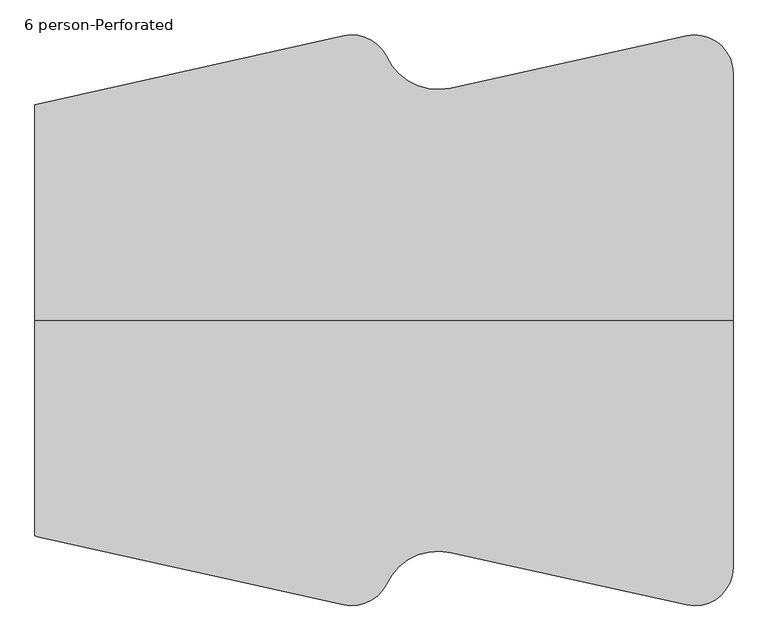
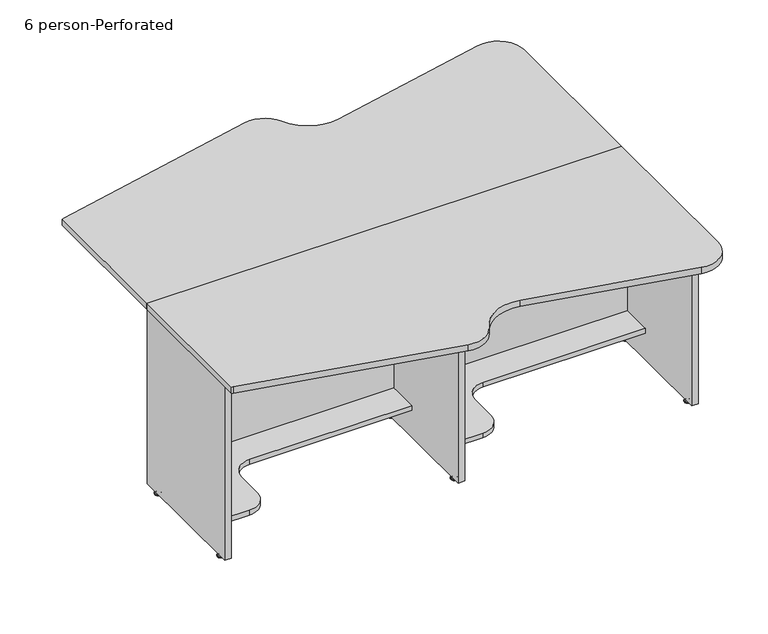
"""IFC4 building model written with IfcOpenShell, lengths in millimetres: furniture geometry, Nova Solutions - Collaboration Table - Keystone_6-7 person : 6 person-Perforated."""

from ifc_helpers import new_model, si_unit, point, frame, frame_2d, origin, place, context, project, spatial, polyline, circle_curve, ellipse_curve, trimmed, segment, composite_curve, outline, extrude, source, transform, mapped, element, save
from ifc_brep_helpers import plane_surface, cylinder_surface, revolved_surface, advanced_brep


def furniture_6_person_perforated_24b4f6db(model_context):
    return source(origin(), model_context, "Body", "SolidModel", [
        advanced_brep(
        [(463.1276506, 474.3309375, 11.1125), (456.45, 474.3309375, 11.1125), (449.7723494, 474.3309375, 11.1125), (463.1276506, 474.3309375, 9.525), (449.7723494, 474.3309375, 9.525), (468.3355135, 474.3309375, 4.7748687), (444.5644865, 474.3309375, 4.7748687), (469.1966506, 474.3309375, 3.989419), (443.7033494, 474.3309375, 3.989419), (469.1966506, 474.3309375, 3.175), (443.7033494, 474.3309375, 3.175), (468.3459119, 474.3309375, 0.0), (444.5540881, 474.3309375, 0.0), (456.45, 474.3309375, 0.0)],
        [
            (0, 1),
            (1, 2),
            (2, 0, circle_curve(frame((456.45, 474.3309375, 11.1125), z_axis=(0.0, 0.0, 1.0), x_axis=(-1.0, 0.0, 0.0)), 6.6776506)),
            (0, 2, circle_curve(frame((456.45, 474.3309375, 11.1125), z_axis=(0.0, 0.0, 1.0), x_axis=(-1.0, 0.0, 0.0)), 6.6776506)),
            (3, 0),
            (2, 4),
            (4, 3, circle_curve(frame((456.45, 474.3309375, 9.525), z_axis=(0.0, 0.0, 1.0), x_axis=(-1.0, 0.0, 0.0)), 6.6776506)),
            (3, 4, circle_curve(frame((456.45, 474.3309375, 9.525), z_axis=(0.0, 0.0, 1.0), x_axis=(-1.0, 0.0, 0.0)), 6.6776506)),
            (5, 3, circle_curve(frame((469.3820627, 474.3309375, 11.1521822), z_axis=(0.0, 1.0, 0.0), x_axis=(-1.0, 0.0, 0.0)), 6.462615)),
            (4, 6, circle_curve(frame((443.5179373, 474.3309375, 11.1521822), z_axis=(0.0, 1.0, 0.0), x_axis=(1.0, 0.0, 0.0)), 6.462615)),
            (6, 5, circle_curve(frame((456.45, 474.3309375, 4.7748687), z_axis=(0.0, 0.0, 1.0), x_axis=(-1.0, 0.0, 0.0)), 11.8855135)),
            (5, 6, circle_curve(frame((456.45, 474.3309375, 4.7748687), z_axis=(0.0, 0.0, 1.0), x_axis=(-1.0, 0.0, 0.0)), 11.8855135)),
            (7, 5, circle_curve(frame((468.1624632, 474.3309375, 3.7203591), z_axis=(0.0, -1.0, 0.0), x_axis=(-1.0, 0.0, 0.0)), 1.0686145)),
            (6, 8, circle_curve(frame((444.7375368, 474.3309375, 3.7203591), z_axis=(0.0, -1.0, 0.0), x_axis=(1.0, 0.0, 0.0)), 1.0686145)),
            (8, 7, circle_curve(frame((456.45, 474.3309375, 3.989419), z_axis=(0.0, 0.0, 1.0), x_axis=(-1.0, 0.0, 0.0)), 12.7466506)),
            (7, 8, circle_curve(frame((456.45, 474.3309375, 3.989419), z_axis=(0.0, 0.0, 1.0), x_axis=(-1.0, 0.0, 0.0)), 12.7466506)),
            (9, 7),
            (8, 10),
            (10, 9, circle_curve(frame((456.45, 474.3309375, 3.175), z_axis=(0.0, 0.0, 1.0), x_axis=(-1.0, 0.0, 0.0)), 12.7466506)),
            (9, 10, circle_curve(frame((456.45, 474.3309375, 3.175), z_axis=(0.0, 0.0, 1.0), x_axis=(-1.0, 0.0, 0.0)), 12.7466506)),
            (11, 9),
            (10, 12),
            (12, 11, circle_curve(frame((456.45, 474.3309375, 0.0), z_axis=(0.0, 0.0, 1.0), x_axis=(-1.0, 0.0, 0.0)), 11.8959119)),
            (11, 12, circle_curve(frame((456.45, 474.3309375, 0.0), z_axis=(0.0, 0.0, 1.0), x_axis=(-1.0, 0.0, 0.0)), 11.8959119)),
            (13, 11),
            (12, 13),
        ],
        [
            plane_surface(frame((456.45, 474.3309375, 11.1125), z_axis=(0.0, 0.0, 1.0), x_axis=(-1.0, 0.0, 0.0))),
            cylinder_surface(frame((456.45, 474.3309375, 43.2095994), z_axis=(0.0, 0.0, -1.0), x_axis=(-1.0, 0.0, 0.0)), 6.6776506),
            revolved_surface(trimmed(ellipse_curve(frame((443.5179373, 474.3309375, 11.1521822), z_axis=(0.0, 1.0, 0.0), x_axis=(1.0, 0.0, 0.0)), 6.462615, 6.462615), [point((449.7723494, 474.3309375, 9.525))], [point((444.5644865, 474.3309375, 4.7748687))], True, "CARTESIAN"), (456.45, 474.3309375, 43.2095994), (0.0, 0.0, -1.0)),
            revolved_surface(trimmed(ellipse_curve(frame((444.7375368, 474.3309375, 3.7203591), z_axis=(0.0, -1.0, 0.0), x_axis=(1.0, 0.0, 0.0)), 1.0686145, 1.0686145), [point((444.5644865, 474.3309375, 4.7748687))], [point((443.7033494, 474.3309375, 3.989419))], True, "CARTESIAN"), (456.45, 474.3309375, 43.2095994), (0.0, 0.0, -1.0)),
            cylinder_surface(frame((456.45, 474.3309375, 43.2095994), z_axis=(0.0, 0.0, -1.0), x_axis=(-1.0, 0.0, 0.0)), 12.7466506),
            revolved_surface(polyline([(443.7033494, 474.3309375, 3.175), (444.5540881, 474.3309375, 0.0)]), (456.45, 474.3309375, 43.2095994), (0.0, 0.0, -1.0)),
            plane_surface(frame((456.45, 474.3309375, 0.0), z_axis=(0.0, 0.0, -1.0), x_axis=(-1.0, 0.0, 0.0))),
        ],
        [
            (0, [[1, 2, 3]]),
            (0, [[-2, -1, 4]]),
            (1, [[5, -3, 6, 7]]),
            (1, [[-6, -4, -5, 8]]),
            (2, [[9, -7, 10, 11]]),
            (2, [[-10, -8, -9, 12]]),
            (3, [[13, -11, 14, 15]]),
            (3, [[-14, -12, -13, 16]]),
            (4, [[17, -15, 18, 19]]),
            (4, [[-18, -16, -17, 20]]),
            (5, [[21, -19, 22, 23]]),
            (5, [[-22, -20, -21, 24]]),
            (6, [[25, -23, 26]]),
            (6, [[-26, -24, -25]]),
        ],
    ),
        advanced_brep(
        [(463.1276506, 50.3590625, 11.1125), (456.45, 50.3590625, 11.1125), (449.7723494, 50.3590625, 11.1125), (463.1276506, 50.3590625, 9.525), (449.7723494, 50.3590625, 9.525), (468.3355135, 50.3590625, 4.7748687), (444.5644865, 50.3590625, 4.7748687), (469.1966506, 50.3590625, 3.989419), (443.7033494, 50.3590625, 3.989419), (469.1966506, 50.3590625, 3.175), (443.7033494, 50.3590625, 3.175), (468.3459119, 50.3590625, 0.0), (444.5540881, 50.3590625, 0.0), (456.45, 50.3590625, 0.0)],
        [
            (0, 1),
            (1, 2),
            (2, 0, circle_curve(frame((456.45, 50.3590625, 11.1125), z_axis=(0.0, 0.0, 1.0), x_axis=(-1.0, 0.0, 0.0)), 6.6776506)),
            (0, 2, circle_curve(frame((456.45, 50.3590625, 11.1125), z_axis=(0.0, 0.0, 1.0), x_axis=(-1.0, 0.0, 0.0)), 6.6776506)),
            (3, 0),
            (2, 4),
            (4, 3, circle_curve(frame((456.45, 50.3590625, 9.525), z_axis=(0.0, 0.0, 1.0), x_axis=(-1.0, 0.0, 0.0)), 6.6776506)),
            (3, 4, circle_curve(frame((456.45, 50.3590625, 9.525), z_axis=(0.0, 0.0, 1.0), x_axis=(-1.0, 0.0, 0.0)), 6.6776506)),
            (5, 3, circle_curve(frame((469.3820627, 50.3590625, 11.1521822), z_axis=(0.0, 1.0, 0.0), x_axis=(-1.0, 0.0, 0.0)), 6.462615)),
            (4, 6, circle_curve(frame((443.5179373, 50.3590625, 11.1521822), z_axis=(0.0, 1.0, 0.0), x_axis=(1.0, 0.0, 0.0)), 6.462615)),
            (6, 5, circle_curve(frame((456.45, 50.3590625, 4.7748687), z_axis=(0.0, 0.0, 1.0), x_axis=(-1.0, 0.0, 0.0)), 11.8855135)),
            (5, 6, circle_curve(frame((456.45, 50.3590625, 4.7748687), z_axis=(0.0, 0.0, 1.0), x_axis=(-1.0, 0.0, 0.0)), 11.8855135)),
            (7, 5, circle_curve(frame((468.1624632, 50.3590625, 3.7203591), z_axis=(0.0, -1.0, 0.0), x_axis=(-1.0, 0.0, 0.0)), 1.0686145)),
            (6, 8, circle_curve(frame((444.7375368, 50.3590625, 3.7203591), z_axis=(0.0, -1.0, 0.0), x_axis=(1.0, 0.0, 0.0)), 1.0686145)),
            (8, 7, circle_curve(frame((456.45, 50.3590625, 3.989419), z_axis=(0.0, 0.0, 1.0), x_axis=(-1.0, 0.0, 0.0)), 12.7466506)),
            (7, 8, circle_curve(frame((456.45, 50.3590625, 3.989419), z_axis=(0.0, 0.0, 1.0), x_axis=(-1.0, 0.0, 0.0)), 12.7466506)),
            (9, 7),
            (8, 10),
            (10, 9, circle_curve(frame((456.45, 50.3590625, 3.175), z_axis=(0.0, 0.0, 1.0), x_axis=(-1.0, 0.0, 0.0)), 12.7466506)),
            (9, 10, circle_curve(frame((456.45, 50.3590625, 3.175), z_axis=(0.0, 0.0, 1.0), x_axis=(-1.0, 0.0, 0.0)), 12.7466506)),
            (11, 9),
            (10, 12),
            (12, 11, circle_curve(frame((456.45, 50.3590625, 0.0), z_axis=(0.0, 0.0, 1.0), x_axis=(-1.0, 0.0, 0.0)), 11.8959119)),
            (11, 12, circle_curve(frame((456.45, 50.3590625, 0.0), z_axis=(0.0, 0.0, 1.0), x_axis=(-1.0, 0.0, 0.0)), 11.8959119)),
            (13, 11),
            (12, 13),
        ],
        [
            plane_surface(frame((456.45, 50.3590625, 11.1125), z_axis=(0.0, 0.0, 1.0), x_axis=(-1.0, 0.0, 0.0))),
            cylinder_surface(frame((456.45, 50.3590625, 43.2095994), z_axis=(0.0, 0.0, -1.0), x_axis=(-1.0, 0.0, 0.0)), 6.6776506),
            revolved_surface(trimmed(ellipse_curve(frame((443.5179373, 50.3590625, 11.1521822), z_axis=(0.0, 1.0, 0.0), x_axis=(1.0, 0.0, 0.0)), 6.462615, 6.462615), [point((449.7723494, 50.3590625, 9.525))], [point((444.5644865, 50.3590625, 4.7748687))], True, "CARTESIAN"), (456.45, 50.3590625, 43.2095994), (0.0, 0.0, -1.0)),
            revolved_surface(trimmed(ellipse_curve(frame((444.7375368, 50.3590625, 3.7203591), z_axis=(0.0, -1.0, 0.0), x_axis=(1.0, 0.0, 0.0)), 1.0686145, 1.0686145), [point((444.5644865, 50.3590625, 4.7748687))], [point((443.7033494, 50.3590625, 3.989419))], True, "CARTESIAN"), (456.45, 50.3590625, 43.2095994), (0.0, 0.0, -1.0)),
            cylinder_surface(frame((456.45, 50.3590625, 43.2095994), z_axis=(0.0, 0.0, -1.0), x_axis=(-1.0, 0.0, 0.0)), 12.7466506),
            revolved_surface(polyline([(443.7033494, 50.3590625, 3.175), (444.5540881, 50.3590625, 0.0)]), (456.45, 50.3590625, 43.2095994), (0.0, 0.0, -1.0)),
            plane_surface(frame((456.45, 50.3590625, 0.0), z_axis=(0.0, 0.0, -1.0), x_axis=(-1.0, 0.0, 0.0))),
        ],
        [
            (0, [[1, 2, 3]]),
            (0, [[-2, -1, 4]]),
            (1, [[5, -3, 6, 7]]),
            (1, [[-6, -4, -5, 8]]),
            (2, [[9, -7, 10, 11]]),
            (2, [[-10, -8, -9, 12]]),
            (3, [[13, -11, 14, 15]]),
            (3, [[-14, -12, -13, 16]]),
            (4, [[17, -15, 18, 19]]),
            (4, [[-18, -16, -17, 20]]),
            (5, [[21, -19, 22, 23]]),
            (5, [[-22, -20, -21, 24]]),
            (6, [[25, -23, 26]]),
            (6, [[-26, -24, -25]]),
        ],
    ),
        extrude(outline(polyline([(469.3, 1.345), (443.6, 1.345), (443.6, 523.345), (469.3, 523.345), (469.3, 1.345)])), frame((0.0, 0.0, 15.6), z_axis=(0.0, 0.0, 1.0), x_axis=(1.0, 0.0, 0.0)), (0.0, 0.0, 1.0), 720.7),
        extrude(outline(composite_curve([segment(polyline([(1383.5, 0.0), (-470.738, 0.0), (-470.738, 572.7433508)]), True, "CONTINUOUS"), segment(trimmed(circle_curve(frame_2d((-445.3751452, 474.4632633)), 101.5), [point((-470.738, 572.7433508))], [point((-464.3258236, 574.1784667))], False, "CARTESIAN"), True, "CONTINUOUS"), segment(polyline([(-464.3258236, 574.1784667), (349.1672116, 755.6229945)]), True, "CONTINUOUS"), segment(trimmed(circle_curve(frame_2d((371.2632006, 656.5572725)), 101.5), [point((349.1672116, 755.6229945))], [point((461.8649334, 702.3128843))], False, "CARTESIAN"), True, "CONTINUOUS"), segment(trimmed(circle_curve(frame_2d((600.5430311, 765.5121345)), 152.4), [point((461.8649334, 702.3128843))], [point((633.5284283, 616.724623))], True, "CARTESIAN"), True, "CONTINUOUS"), segment(polyline([(633.5284283, 616.724623), (1260.0313792, 755.6169834)]), True, "CONTINUOUS"), segment(trimmed(circle_curve(frame_2d((1282.0, 656.5229386)), 101.5), [point((1260.0313792, 755.6169834))], [point((1383.5, 656.5229386))], False, "CARTESIAN"), True, "CONTINUOUS"), segment(polyline([(1383.5, 656.5229386), (1383.5, 0.0)]), True, "CONTINUOUS")], self_intersect=False)), frame((0.0, 0.0, 736.3), z_axis=(0.0, 0.0, 1.0), x_axis=(1.0, 0.0, 0.0)), (0.0, 0.0, 1.0), 25.7),
        extrude(outline(polyline([(736.3, 1356.4), (736.3, 469.3), (507.4, 469.3), (507.4, 640.3), (145.5, 640.3), (145.5, 1356.4), (736.3, 1356.4)])), frame((0.0, -88.545, 0.0), z_axis=(0.0, 1.0, 0.0), x_axis=(0.0, 0.0, 1.0)), (0.0, 0.0, 1.0), 19.2),
        extrude(outline(composite_curve([segment(polyline([(1356.4, -14.045), (1356.4, -210.345), (723.3, -210.345)]), True, "CONTINUOUS"), segment(trimmed(circle_curve(frame_2d((723.3, -286.545)), 76.2), [point((723.3, -210.345))], [point((647.1, -286.545))], True, "CARTESIAN"), True, "CONTINUOUS"), segment(polyline([(647.1, -286.545), (647.1, -393.7075)]), True, "CONTINUOUS"), segment(trimmed(circle_curve(frame_2d((570.9, -393.7075)), 76.2), [point((647.1, -393.7075))], [point((570.9, -469.9075))], False, "CARTESIAN"), True, "CONTINUOUS"), segment(polyline([(570.9, -469.9075), (469.3, -469.9075), (469.3, -14.045), (1356.4, -14.045)]), True, "CONTINUOUS")], self_intersect=False)), frame((0.0, 0.0, 126.3), z_axis=(0.0, 0.0, 1.0), x_axis=(1.0, 0.0, 0.0)), (0.0, 0.0, 1.0), 19.2),
        advanced_brep(
        [(1375.9276506, -474.3309375, 11.1125), (1362.5723494, -474.3309375, 11.1125), (1369.25, -474.3309375, 11.1125), (1375.9276506, -474.3309375, 9.525), (1362.5723494, -474.3309375, 9.525), (1381.1355135, -474.3309375, 4.7748687), (1357.3644865, -474.3309375, 4.7748687), (1381.9966506, -474.3309375, 3.989419), (1356.5033494, -474.3309375, 3.989419), (1381.9966506, -474.3309375, 3.175), (1356.5033494, -474.3309375, 3.175), (1381.1459119, -474.3309375, 0.0), (1357.3540881, -474.3309375, 0.0), (1369.25, -474.3309375, 0.0)],
        [
            (0, 1, circle_curve(frame((1369.25, -474.3309375, 11.1125), z_axis=(0.0, 0.0, 1.0), x_axis=(-1.0, 0.0, 0.0)), 6.6776506)),
            (1, 2),
            (2, 0),
            (1, 0, circle_curve(frame((1369.25, -474.3309375, 11.1125), z_axis=(0.0, 0.0, 1.0), x_axis=(-1.0, 0.0, 0.0)), 6.6776506)),
            (3, 4, circle_curve(frame((1369.25, -474.3309375, 9.525), z_axis=(0.0, 0.0, 1.0), x_axis=(-1.0, 0.0, 0.0)), 6.6776506)),
            (4, 1),
            (0, 3),
            (4, 3, circle_curve(frame((1369.25, -474.3309375, 9.525), z_axis=(0.0, 0.0, 1.0), x_axis=(-1.0, 0.0, 0.0)), 6.6776506)),
            (5, 6, circle_curve(frame((1369.25, -474.3309375, 4.7748687), z_axis=(0.0, 0.0, 1.0), x_axis=(-1.0, 0.0, 0.0)), 11.8855135)),
            (6, 4, circle_curve(frame((1356.3179373, -474.3309375, 11.1521822), z_axis=(0.0, -1.0, 0.0), x_axis=(1.0, 0.0, 0.0)), 6.462615)),
            (3, 5, circle_curve(frame((1382.1820627, -474.3309375, 11.1521822), z_axis=(0.0, -1.0, 0.0), x_axis=(-1.0, 0.0, 0.0)), 6.462615)),
            (6, 5, circle_curve(frame((1369.25, -474.3309375, 4.7748687), z_axis=(0.0, 0.0, 1.0), x_axis=(-1.0, 0.0, 0.0)), 11.8855135)),
            (7, 8, circle_curve(frame((1369.25, -474.3309375, 3.989419), z_axis=(0.0, 0.0, 1.0), x_axis=(-1.0, 0.0, 0.0)), 12.7466506)),
            (8, 6, circle_curve(frame((1357.5375368, -474.3309375, 3.7203591), z_axis=(0.0, 1.0, 0.0), x_axis=(1.0, 0.0, 0.0)), 1.0686145)),
            (5, 7, circle_curve(frame((1380.9624632, -474.3309375, 3.7203591), z_axis=(0.0, 1.0, 0.0), x_axis=(-1.0, 0.0, 0.0)), 1.0686145)),
            (8, 7, circle_curve(frame((1369.25, -474.3309375, 3.989419), z_axis=(0.0, 0.0, 1.0), x_axis=(-1.0, 0.0, 0.0)), 12.7466506)),
            (9, 10, circle_curve(frame((1369.25, -474.3309375, 3.175), z_axis=(0.0, 0.0, 1.0), x_axis=(-1.0, 0.0, 0.0)), 12.7466506)),
            (10, 8),
            (7, 9),
            (10, 9, circle_curve(frame((1369.25, -474.3309375, 3.175), z_axis=(0.0, 0.0, 1.0), x_axis=(-1.0, 0.0, 0.0)), 12.7466506)),
            (11, 12, circle_curve(frame((1369.25, -474.3309375, 0.0), z_axis=(0.0, 0.0, 1.0), x_axis=(-1.0, 0.0, 0.0)), 11.8959119)),
            (12, 10),
            (9, 11),
            (12, 11, circle_curve(frame((1369.25, -474.3309375, 0.0), z_axis=(0.0, 0.0, 1.0), x_axis=(-1.0, 0.0, 0.0)), 11.8959119)),
            (13, 12),
            (11, 13),
        ],
        [
            plane_surface(frame((1369.25, -474.3309375, 11.1125), z_axis=(0.0, 0.0, 1.0), x_axis=(-1.0, 0.0, 0.0))),
            cylinder_surface(frame((1369.25, -474.3309375, 43.2095994), z_axis=(0.0, 0.0, -1.0), x_axis=(-1.0, 0.0, 0.0)), 6.6776506),
            revolved_surface(trimmed(ellipse_curve(frame((1356.3179373, -474.3309375, 11.1521822), z_axis=(0.0, 1.0, 0.0), x_axis=(1.0, 0.0, 0.0)), 6.462615, 6.462615), [point((1362.5723494, -474.3309375, 9.525))], [point((1357.3644865, -474.3309375, 4.7748687))], True, "CARTESIAN"), (1369.25, -474.3309375, 43.2095994), (0.0, 0.0, -1.0)),
            revolved_surface(trimmed(ellipse_curve(frame((1357.5375368, -474.3309375, 3.7203591), z_axis=(0.0, -1.0, 0.0), x_axis=(1.0, 0.0, 0.0)), 1.0686145, 1.0686145), [point((1357.3644865, -474.3309375, 4.7748687))], [point((1356.5033494, -474.3309375, 3.989419))], True, "CARTESIAN"), (1369.25, -474.3309375, 43.2095994), (0.0, 0.0, -1.0)),
            cylinder_surface(frame((1369.25, -474.3309375, 43.2095994), z_axis=(0.0, 0.0, -1.0), x_axis=(-1.0, 0.0, 0.0)), 12.7466506),
            revolved_surface(polyline([(1356.5033494, -474.3309375, 3.175), (1357.3540881, -474.3309375, 0.0)]), (1369.25, -474.3309375, 43.2095994), (0.0, 0.0, -1.0)),
            plane_surface(frame((1369.25, -474.3309375, 0.0), z_axis=(0.0, 0.0, -1.0), x_axis=(-1.0, 0.0, 0.0))),
        ],
        [
            (0, [[1, 2, 3]]),
            (0, [[4, -3, -2]]),
            (1, [[5, 6, -1, 7]]),
            (1, [[8, -7, -4, -6]]),
            (2, [[9, 10, -5, 11]]),
            (2, [[12, -11, -8, -10]]),
            (3, [[13, 14, -9, 15]]),
            (3, [[16, -15, -12, -14]]),
            (4, [[17, 18, -13, 19]]),
            (4, [[20, -19, -16, -18]]),
            (5, [[21, 22, -17, 23]]),
            (5, [[24, -23, -20, -22]]),
            (6, [[25, -21, 26]]),
            (6, [[-26, -24, -25]]),
        ],
    ),
        advanced_brep(
        [(1375.9276506, -50.3590625, 11.1125), (1362.5723494, -50.3590625, 11.1125), (1369.25, -50.3590625, 11.1125), (1375.9276506, -50.3590625, 9.525), (1362.5723494, -50.3590625, 9.525), (1381.1355135, -50.3590625, 4.7748687), (1357.3644865, -50.3590625, 4.7748687), (1381.9966506, -50.3590625, 3.989419), (1356.5033494, -50.3590625, 3.989419), (1381.9966506, -50.3590625, 3.175), (1356.5033494, -50.3590625, 3.175), (1381.1459119, -50.3590625, 0.0), (1357.3540881, -50.3590625, 0.0), (1369.25, -50.3590625, 0.0)],
        [
            (0, 1, circle_curve(frame((1369.25, -50.3590625, 11.1125), z_axis=(0.0, 0.0, 1.0), x_axis=(-1.0, 0.0, 0.0)), 6.6776506)),
            (1, 2),
            (2, 0),
            (1, 0, circle_curve(frame((1369.25, -50.3590625, 11.1125), z_axis=(0.0, 0.0, 1.0), x_axis=(-1.0, 0.0, 0.0)), 6.6776506)),
            (3, 4, circle_curve(frame((1369.25, -50.3590625, 9.525), z_axis=(0.0, 0.0, 1.0), x_axis=(-1.0, 0.0, 0.0)), 6.6776506)),
            (4, 1),
            (0, 3),
            (4, 3, circle_curve(frame((1369.25, -50.3590625, 9.525), z_axis=(0.0, 0.0, 1.0), x_axis=(-1.0, 0.0, 0.0)), 6.6776506)),
            (5, 6, circle_curve(frame((1369.25, -50.3590625, 4.7748687), z_axis=(0.0, 0.0, 1.0), x_axis=(-1.0, 0.0, 0.0)), 11.8855135)),
            (6, 4, circle_curve(frame((1356.3179373, -50.3590625, 11.1521822), z_axis=(0.0, -1.0, 0.0), x_axis=(1.0, 0.0, 0.0)), 6.462615)),
            (3, 5, circle_curve(frame((1382.1820627, -50.3590625, 11.1521822), z_axis=(0.0, -1.0, 0.0), x_axis=(-1.0, 0.0, 0.0)), 6.462615)),
            (6, 5, circle_curve(frame((1369.25, -50.3590625, 4.7748687), z_axis=(0.0, 0.0, 1.0), x_axis=(-1.0, 0.0, 0.0)), 11.8855135)),
            (7, 8, circle_curve(frame((1369.25, -50.3590625, 3.989419), z_axis=(0.0, 0.0, 1.0), x_axis=(-1.0, 0.0, 0.0)), 12.7466506)),
            (8, 6, circle_curve(frame((1357.5375368, -50.3590625, 3.7203591), z_axis=(0.0, 1.0, 0.0), x_axis=(1.0, 0.0, 0.0)), 1.0686145)),
            (5, 7, circle_curve(frame((1380.9624632, -50.3590625, 3.7203591), z_axis=(0.0, 1.0, 0.0), x_axis=(-1.0, 0.0, 0.0)), 1.0686145)),
            (8, 7, circle_curve(frame((1369.25, -50.3590625, 3.989419), z_axis=(0.0, 0.0, 1.0), x_axis=(-1.0, 0.0, 0.0)), 12.7466506)),
            (9, 10, circle_curve(frame((1369.25, -50.3590625, 3.175), z_axis=(0.0, 0.0, 1.0), x_axis=(-1.0, 0.0, 0.0)), 12.7466506)),
            (10, 8),
            (7, 9),
            (10, 9, circle_curve(frame((1369.25, -50.3590625, 3.175), z_axis=(0.0, 0.0, 1.0), x_axis=(-1.0, 0.0, 0.0)), 12.7466506)),
            (11, 12, circle_curve(frame((1369.25, -50.3590625, 0.0), z_axis=(0.0, 0.0, 1.0), x_axis=(-1.0, 0.0, 0.0)), 11.8959119)),
            (12, 10),
            (9, 11),
            (12, 11, circle_curve(frame((1369.25, -50.3590625, 0.0), z_axis=(0.0, 0.0, 1.0), x_axis=(-1.0, 0.0, 0.0)), 11.8959119)),
            (13, 12),
            (11, 13),
        ],
        [
            plane_surface(frame((1369.25, -50.3590625, 11.1125), z_axis=(0.0, 0.0, 1.0), x_axis=(-1.0, 0.0, 0.0))),
            cylinder_surface(frame((1369.25, -50.3590625, 43.2095994), z_axis=(0.0, 0.0, -1.0), x_axis=(-1.0, 0.0, 0.0)), 6.6776506),
            revolved_surface(trimmed(ellipse_curve(frame((1356.3179373, -50.3590625, 11.1521822), z_axis=(0.0, 1.0, 0.0), x_axis=(1.0, 0.0, 0.0)), 6.462615, 6.462615), [point((1362.5723494, -50.3590625, 9.525))], [point((1357.3644865, -50.3590625, 4.7748687))], True, "CARTESIAN"), (1369.25, -50.3590625, 43.2095994), (0.0, 0.0, -1.0)),
            revolved_surface(trimmed(ellipse_curve(frame((1357.5375368, -50.3590625, 3.7203591), z_axis=(0.0, -1.0, 0.0), x_axis=(1.0, 0.0, 0.0)), 1.0686145, 1.0686145), [point((1357.3644865, -50.3590625, 4.7748687))], [point((1356.5033494, -50.3590625, 3.989419))], True, "CARTESIAN"), (1369.25, -50.3590625, 43.2095994), (0.0, 0.0, -1.0)),
            cylinder_surface(frame((1369.25, -50.3590625, 43.2095994), z_axis=(0.0, 0.0, -1.0), x_axis=(-1.0, 0.0, 0.0)), 12.7466506),
            revolved_surface(polyline([(1356.5033494, -50.3590625, 3.175), (1357.3540881, -50.3590625, 0.0)]), (1369.25, -50.3590625, 43.2095994), (0.0, 0.0, -1.0)),
            plane_surface(frame((1369.25, -50.3590625, 0.0), z_axis=(0.0, 0.0, -1.0), x_axis=(-1.0, 0.0, 0.0))),
        ],
        [
            (0, [[1, 2, 3]]),
            (0, [[4, -3, -2]]),
            (1, [[5, 6, -1, 7]]),
            (1, [[8, -7, -4, -6]]),
            (2, [[9, 10, -5, 11]]),
            (2, [[12, -11, -8, -10]]),
            (3, [[13, 14, -9, 15]]),
            (3, [[16, -15, -12, -14]]),
            (4, [[17, 18, -13, 19]]),
            (4, [[20, -19, -16, -18]]),
            (5, [[21, 22, -17, 23]]),
            (5, [[24, -23, -20, -22]]),
            (6, [[25, -21, 26]]),
            (6, [[-26, -24, -25]]),
        ],
    ),
        extrude(outline(polyline([(1382.1, -1.345), (1382.1, -523.345), (1356.4, -523.345), (1356.4, -1.345), (1382.1, -1.345)])), frame((0.0, 0.0, 15.6), z_axis=(0.0, 0.0, 1.0), x_axis=(1.0, 0.0, 0.0)), (0.0, 0.0, 1.0), 720.7),
        extrude(outline(polyline([(145.5, 443.6), (736.3, 443.6), (736.3, -443.6), (507.4, -443.6), (507.4, -272.6), (145.5, -272.6), (145.5, 443.6)])), frame((0.0, -88.545, 0.0), z_axis=(0.0, 1.0, 0.0), x_axis=(0.0, 0.0, 1.0)), (0.0, 0.0, 1.0), 19.2),
        extrude(outline(composite_curve([segment(polyline([(-443.6, -469.9075), (-443.6, -14.045), (443.6, -14.045), (443.6, -210.345), (-189.6, -210.345)]), True, "CONTINUOUS"), segment(trimmed(circle_curve(frame_2d((-189.6, -286.545)), 76.2), [point((-189.6, -210.345))], [point((-265.8, -286.545))], True, "CARTESIAN"), True, "CONTINUOUS"), segment(polyline([(-265.8, -286.545), (-265.8, -393.7075)]), True, "CONTINUOUS"), segment(trimmed(circle_curve(frame_2d((-342.0, -393.7075)), 76.2), [point((-265.8, -393.7075))], [point((-342.0, -469.9075))], False, "CARTESIAN"), True, "CONTINUOUS"), segment(polyline([(-342.0, -469.9075), (-443.6, -469.9075)]), True, "CONTINUOUS")], self_intersect=False)), frame((0.0, 0.0, 126.3), z_axis=(0.0, 0.0, 1.0), x_axis=(1.0, 0.0, 0.0)), (0.0, 0.0, 1.0), 19.2),
        advanced_brep(
        [(-463.1276506, -474.3309375, 11.1125), (-456.45, -474.3309375, 11.1125), (-449.7723494, -474.3309375, 11.1125), (-463.1276506, -474.3309375, 9.525), (-449.7723494, -474.3309375, 9.525), (-468.3355135, -474.3309375, 4.7748687), (-444.5644865, -474.3309375, 4.7748687), (-469.1966506, -474.3309375, 3.989419), (-443.7033494, -474.3309375, 3.989419), (-469.1966506, -474.3309375, 3.175), (-443.7033494, -474.3309375, 3.175), (-468.3459119, -474.3309375, 0.0), (-444.5540881, -474.3309375, 0.0), (-456.45, -474.3309375, 0.0)],
        [
            (0, 1),
            (1, 2),
            (2, 0, circle_curve(frame((-456.45, -474.3309375, 11.1125), z_axis=(0.0, 0.0, 1.0), x_axis=(1.0, 0.0, 0.0)), 6.6776506)),
            (0, 2, circle_curve(frame((-456.45, -474.3309375, 11.1125), z_axis=(0.0, 0.0, 1.0), x_axis=(1.0, 0.0, 0.0)), 6.6776506)),
            (3, 0),
            (2, 4),
            (4, 3, circle_curve(frame((-456.45, -474.3309375, 9.525), z_axis=(0.0, 0.0, 1.0), x_axis=(1.0, 0.0, 0.0)), 6.6776506)),
            (3, 4, circle_curve(frame((-456.45, -474.3309375, 9.525), z_axis=(0.0, 0.0, 1.0), x_axis=(1.0, 0.0, 0.0)), 6.6776506)),
            (5, 3, circle_curve(frame((-469.3820627, -474.3309375, 11.1521822), z_axis=(0.0, -1.0, 0.0), x_axis=(1.0, 0.0, 0.0)), 6.462615)),
            (4, 6, circle_curve(frame((-443.5179373, -474.3309375, 11.1521822), z_axis=(0.0, -1.0, 0.0), x_axis=(-1.0, 0.0, 0.0)), 6.462615)),
            (6, 5, circle_curve(frame((-456.45, -474.3309375, 4.7748687), z_axis=(0.0, 0.0, 1.0), x_axis=(1.0, 0.0, 0.0)), 11.8855135)),
            (5, 6, circle_curve(frame((-456.45, -474.3309375, 4.7748687), z_axis=(0.0, 0.0, 1.0), x_axis=(1.0, 0.0, 0.0)), 11.8855135)),
            (7, 5, circle_curve(frame((-468.1624632, -474.3309375, 3.7203591), z_axis=(0.0, 1.0, 0.0), x_axis=(1.0, 0.0, 0.0)), 1.0686145)),
            (6, 8, circle_curve(frame((-444.7375368, -474.3309375, 3.7203591), z_axis=(0.0, 1.0, 0.0), x_axis=(-1.0, 0.0, 0.0)), 1.0686145)),
            (8, 7, circle_curve(frame((-456.45, -474.3309375, 3.989419), z_axis=(0.0, 0.0, 1.0), x_axis=(1.0, 0.0, 0.0)), 12.7466506)),
            (7, 8, circle_curve(frame((-456.45, -474.3309375, 3.989419), z_axis=(0.0, 0.0, 1.0), x_axis=(1.0, 0.0, 0.0)), 12.7466506)),
            (9, 7),
            (8, 10),
            (10, 9, circle_curve(frame((-456.45, -474.3309375, 3.175), z_axis=(0.0, 0.0, 1.0), x_axis=(1.0, 0.0, 0.0)), 12.7466506)),
            (9, 10, circle_curve(frame((-456.45, -474.3309375, 3.175), z_axis=(0.0, 0.0, 1.0), x_axis=(1.0, 0.0, 0.0)), 12.7466506)),
            (11, 9),
            (10, 12),
            (12, 11, circle_curve(frame((-456.45, -474.3309375, 0.0), z_axis=(0.0, 0.0, 1.0), x_axis=(1.0, 0.0, 0.0)), 11.8959119)),
            (11, 12, circle_curve(frame((-456.45, -474.3309375, 0.0), z_axis=(0.0, 0.0, 1.0), x_axis=(1.0, 0.0, 0.0)), 11.8959119)),
            (13, 11),
            (12, 13),
        ],
        [
            plane_surface(frame((-456.45, -474.3309375, 11.1125), z_axis=(0.0, 0.0, 1.0), x_axis=(1.0, 0.0, 0.0))),
            cylinder_surface(frame((-456.45, -474.3309375, 43.2095994), z_axis=(0.0, 0.0, -1.0), x_axis=(1.0, 0.0, 0.0)), 6.6776506),
            revolved_surface(trimmed(ellipse_curve(frame((-443.5179373, -474.3309375, 11.1521822), z_axis=(0.0, -1.0, 0.0), x_axis=(-1.0, 0.0, 0.0)), 6.462615, 6.462615), [point((-449.7723494, -474.3309375, 9.525))], [point((-444.5644865, -474.3309375, 4.7748687))], True, "CARTESIAN"), (-456.45, -474.3309375, 43.2095994), (0.0, 0.0, -1.0)),
            revolved_surface(trimmed(ellipse_curve(frame((-444.7375368, -474.3309375, 3.7203591), z_axis=(0.0, 1.0, 0.0), x_axis=(-1.0, 0.0, 0.0)), 1.0686145, 1.0686145), [point((-444.5644865, -474.3309375, 4.7748687))], [point((-443.7033494, -474.3309375, 3.989419))], True, "CARTESIAN"), (-456.45, -474.3309375, 43.2095994), (0.0, 0.0, -1.0)),
            cylinder_surface(frame((-456.45, -474.3309375, 43.2095994), z_axis=(0.0, 0.0, -1.0), x_axis=(1.0, 0.0, 0.0)), 12.7466506),
            revolved_surface(polyline([(-443.7033494, -474.3309375, 3.175), (-444.5540881, -474.3309375, 0.0)]), (-456.45, -474.3309375, 43.2095994), (0.0, 0.0, -1.0)),
            plane_surface(frame((-456.45, -474.3309375, 0.0), z_axis=(0.0, 0.0, -1.0), x_axis=(1.0, 0.0, 0.0))),
        ],
        [
            (0, [[1, 2, 3]]),
            (0, [[-2, -1, 4]]),
            (1, [[5, -3, 6, 7]]),
            (1, [[-6, -4, -5, 8]]),
            (2, [[9, -7, 10, 11]]),
            (2, [[-10, -8, -9, 12]]),
            (3, [[13, -11, 14, 15]]),
            (3, [[-14, -12, -13, 16]]),
            (4, [[17, -15, 18, 19]]),
            (4, [[-18, -16, -17, 20]]),
            (5, [[21, -19, 22, 23]]),
            (5, [[-22, -20, -21, 24]]),
            (6, [[25, -23, 26]]),
            (6, [[-26, -24, -25]]),
        ],
    ),
        advanced_brep(
        [(-463.1276506, -50.3590625, 11.1125), (-456.45, -50.3590625, 11.1125), (-449.7723494, -50.3590625, 11.1125), (-463.1276506, -50.3590625, 9.525), (-449.7723494, -50.3590625, 9.525), (-468.3355135, -50.3590625, 4.7748687), (-444.5644865, -50.3590625, 4.7748687), (-469.1966506, -50.3590625, 3.989419), (-443.7033494, -50.3590625, 3.989419), (-469.1966506, -50.3590625, 3.175), (-443.7033494, -50.3590625, 3.175), (-468.3459119, -50.3590625, 0.0), (-444.5540881, -50.3590625, 0.0), (-456.45, -50.3590625, 0.0)],
        [
            (0, 1),
            (1, 2),
            (2, 0, circle_curve(frame((-456.45, -50.3590625, 11.1125), z_axis=(0.0, 0.0, 1.0), x_axis=(1.0, 0.0, 0.0)), 6.6776506)),
            (0, 2, circle_curve(frame((-456.45, -50.3590625, 11.1125), z_axis=(0.0, 0.0, 1.0), x_axis=(1.0, 0.0, 0.0)), 6.6776506)),
            (3, 0),
            (2, 4),
            (4, 3, circle_curve(frame((-456.45, -50.3590625, 9.525), z_axis=(0.0, 0.0, 1.0), x_axis=(1.0, 0.0, 0.0)), 6.6776506)),
            (3, 4, circle_curve(frame((-456.45, -50.3590625, 9.525), z_axis=(0.0, 0.0, 1.0), x_axis=(1.0, 0.0, 0.0)), 6.6776506)),
            (5, 3, circle_curve(frame((-469.3820627, -50.3590625, 11.1521822), z_axis=(0.0, -1.0, 0.0), x_axis=(1.0, 0.0, 0.0)), 6.462615)),
            (4, 6, circle_curve(frame((-443.5179373, -50.3590625, 11.1521822), z_axis=(0.0, -1.0, 0.0), x_axis=(-1.0, 0.0, 0.0)), 6.462615)),
            (6, 5, circle_curve(frame((-456.45, -50.3590625, 4.7748687), z_axis=(0.0, 0.0, 1.0), x_axis=(1.0, 0.0, 0.0)), 11.8855135)),
            (5, 6, circle_curve(frame((-456.45, -50.3590625, 4.7748687), z_axis=(0.0, 0.0, 1.0), x_axis=(1.0, 0.0, 0.0)), 11.8855135)),
            (7, 5, circle_curve(frame((-468.1624632, -50.3590625, 3.7203591), z_axis=(0.0, 1.0, 0.0), x_axis=(1.0, 0.0, 0.0)), 1.0686145)),
            (6, 8, circle_curve(frame((-444.7375368, -50.3590625, 3.7203591), z_axis=(0.0, 1.0, 0.0), x_axis=(-1.0, 0.0, 0.0)), 1.0686145)),
            (8, 7, circle_curve(frame((-456.45, -50.3590625, 3.989419), z_axis=(0.0, 0.0, 1.0), x_axis=(1.0, 0.0, 0.0)), 12.7466506)),
            (7, 8, circle_curve(frame((-456.45, -50.3590625, 3.989419), z_axis=(0.0, 0.0, 1.0), x_axis=(1.0, 0.0, 0.0)), 12.7466506)),
            (9, 7),
            (8, 10),
            (10, 9, circle_curve(frame((-456.45, -50.3590625, 3.175), z_axis=(0.0, 0.0, 1.0), x_axis=(1.0, 0.0, 0.0)), 12.7466506)),
            (9, 10, circle_curve(frame((-456.45, -50.3590625, 3.175), z_axis=(0.0, 0.0, 1.0), x_axis=(1.0, 0.0, 0.0)), 12.7466506)),
            (11, 9),
            (10, 12),
            (12, 11, circle_curve(frame((-456.45, -50.3590625, 0.0), z_axis=(0.0, 0.0, 1.0), x_axis=(1.0, 0.0, 0.0)), 11.8959119)),
            (11, 12, circle_curve(frame((-456.45, -50.3590625, 0.0), z_axis=(0.0, 0.0, 1.0), x_axis=(1.0, 0.0, 0.0)), 11.8959119)),
            (13, 11),
            (12, 13),
        ],
        [
            plane_surface(frame((-456.45, -50.3590625, 11.1125), z_axis=(0.0, 0.0, 1.0), x_axis=(1.0, 0.0, 0.0))),
            cylinder_surface(frame((-456.45, -50.3590625, 43.2095994), z_axis=(0.0, 0.0, -1.0), x_axis=(1.0, 0.0, 0.0)), 6.6776506),
            revolved_surface(trimmed(ellipse_curve(frame((-443.5179373, -50.3590625, 11.1521822), z_axis=(0.0, -1.0, 0.0), x_axis=(-1.0, 0.0, 0.0)), 6.462615, 6.462615), [point((-449.7723494, -50.3590625, 9.525))], [point((-444.5644865, -50.3590625, 4.7748687))], True, "CARTESIAN"), (-456.45, -50.3590625, 43.2095994), (0.0, 0.0, -1.0)),
            revolved_surface(trimmed(ellipse_curve(frame((-444.7375368, -50.3590625, 3.7203591), z_axis=(0.0, 1.0, 0.0), x_axis=(-1.0, 0.0, 0.0)), 1.0686145, 1.0686145), [point((-444.5644865, -50.3590625, 4.7748687))], [point((-443.7033494, -50.3590625, 3.989419))], True, "CARTESIAN"), (-456.45, -50.3590625, 43.2095994), (0.0, 0.0, -1.0)),
            cylinder_surface(frame((-456.45, -50.3590625, 43.2095994), z_axis=(0.0, 0.0, -1.0), x_axis=(1.0, 0.0, 0.0)), 12.7466506),
            revolved_surface(polyline([(-443.7033494, -50.3590625, 3.175), (-444.5540881, -50.3590625, 0.0)]), (-456.45, -50.3590625, 43.2095994), (0.0, 0.0, -1.0)),
            plane_surface(frame((-456.45, -50.3590625, 0.0), z_axis=(0.0, 0.0, -1.0), x_axis=(1.0, 0.0, 0.0))),
        ],
        [
            (0, [[1, 2, 3]]),
            (0, [[-2, -1, 4]]),
            (1, [[5, -3, 6, 7]]),
            (1, [[-6, -4, -5, 8]]),
            (2, [[9, -7, 10, 11]]),
            (2, [[-10, -8, -9, 12]]),
            (3, [[13, -11, 14, 15]]),
            (3, [[-14, -12, -13, 16]]),
            (4, [[17, -15, 18, 19]]),
            (4, [[-18, -16, -17, 20]]),
            (5, [[21, -19, 22, 23]]),
            (5, [[-22, -20, -21, 24]]),
            (6, [[25, -23, 26]]),
            (6, [[-26, -24, -25]]),
        ],
    ),
        extrude(outline(polyline([(-469.3, -1.345), (-443.6, -1.345), (-443.6, -523.345), (-469.3, -523.345), (-469.3, -1.345)])), frame((0.0, 0.0, 15.6), z_axis=(0.0, 0.0, 1.0), x_axis=(1.0, 0.0, 0.0)), (0.0, 0.0, 1.0), 720.7),
        advanced_brep(
        [(463.1276506, -474.3309375, 11.1125), (449.7723494, -474.3309375, 11.1125), (456.45, -474.3309375, 11.1125), (463.1276506, -474.3309375, 9.525), (449.7723494, -474.3309375, 9.525), (468.3355135, -474.3309375, 4.7748687), (444.5644865, -474.3309375, 4.7748687), (469.1966506, -474.3309375, 3.989419), (443.7033494, -474.3309375, 3.989419), (469.1966506, -474.3309375, 3.175), (443.7033494, -474.3309375, 3.175), (468.3459119, -474.3309375, 0.0), (444.5540881, -474.3309375, 0.0), (456.45, -474.3309375, 0.0)],
        [
            (0, 1, circle_curve(frame((456.45, -474.3309375, 11.1125), z_axis=(0.0, 0.0, 1.0), x_axis=(-1.0, 0.0, 0.0)), 6.6776506)),
            (1, 2),
            (2, 0),
            (1, 0, circle_curve(frame((456.45, -474.3309375, 11.1125), z_axis=(0.0, 0.0, 1.0), x_axis=(-1.0, 0.0, 0.0)), 6.6776506)),
            (3, 4, circle_curve(frame((456.45, -474.3309375, 9.525), z_axis=(0.0, 0.0, 1.0), x_axis=(-1.0, 0.0, 0.0)), 6.6776506)),
            (4, 1),
            (0, 3),
            (4, 3, circle_curve(frame((456.45, -474.3309375, 9.525), z_axis=(0.0, 0.0, 1.0), x_axis=(-1.0, 0.0, 0.0)), 6.6776506)),
            (5, 6, circle_curve(frame((456.45, -474.3309375, 4.7748687), z_axis=(0.0, 0.0, 1.0), x_axis=(-1.0, 0.0, 0.0)), 11.8855135)),
            (6, 4, circle_curve(frame((443.5179373, -474.3309375, 11.1521822), z_axis=(0.0, -1.0, 0.0), x_axis=(1.0, 0.0, 0.0)), 6.462615)),
            (3, 5, circle_curve(frame((469.3820627, -474.3309375, 11.1521822), z_axis=(0.0, -1.0, 0.0), x_axis=(-1.0, 0.0, 0.0)), 6.462615)),
            (6, 5, circle_curve(frame((456.45, -474.3309375, 4.7748687), z_axis=(0.0, 0.0, 1.0), x_axis=(-1.0, 0.0, 0.0)), 11.8855135)),
            (7, 8, circle_curve(frame((456.45, -474.3309375, 3.989419), z_axis=(0.0, 0.0, 1.0), x_axis=(-1.0, 0.0, 0.0)), 12.7466506)),
            (8, 6, circle_curve(frame((444.7375368, -474.3309375, 3.7203591), z_axis=(0.0, 1.0, 0.0), x_axis=(1.0, 0.0, 0.0)), 1.0686145)),
            (5, 7, circle_curve(frame((468.1624632, -474.3309375, 3.7203591), z_axis=(0.0, 1.0, 0.0), x_axis=(-1.0, 0.0, 0.0)), 1.0686145)),
            (8, 7, circle_curve(frame((456.45, -474.3309375, 3.989419), z_axis=(0.0, 0.0, 1.0), x_axis=(-1.0, 0.0, 0.0)), 12.7466506)),
            (9, 10, circle_curve(frame((456.45, -474.3309375, 3.175), z_axis=(0.0, 0.0, 1.0), x_axis=(-1.0, 0.0, 0.0)), 12.7466506)),
            (10, 8),
            (7, 9),
            (10, 9, circle_curve(frame((456.45, -474.3309375, 3.175), z_axis=(0.0, 0.0, 1.0), x_axis=(-1.0, 0.0, 0.0)), 12.7466506)),
            (11, 12, circle_curve(frame((456.45, -474.3309375, 0.0), z_axis=(0.0, 0.0, 1.0), x_axis=(-1.0, 0.0, 0.0)), 11.8959119)),
            (12, 10),
            (9, 11),
            (12, 11, circle_curve(frame((456.45, -474.3309375, 0.0), z_axis=(0.0, 0.0, 1.0), x_axis=(-1.0, 0.0, 0.0)), 11.8959119)),
            (13, 12),
            (11, 13),
        ],
        [
            plane_surface(frame((456.45, -474.3309375, 11.1125), z_axis=(0.0, 0.0, 1.0), x_axis=(-1.0, 0.0, 0.0))),
            cylinder_surface(frame((456.45, -474.3309375, 43.2095994), z_axis=(0.0, 0.0, -1.0), x_axis=(-1.0, 0.0, 0.0)), 6.6776506),
            revolved_surface(trimmed(ellipse_curve(frame((443.5179373, -474.3309375, 11.1521822), z_axis=(0.0, 1.0, 0.0), x_axis=(1.0, 0.0, 0.0)), 6.462615, 6.462615), [point((449.7723494, -474.3309375, 9.525))], [point((444.5644865, -474.3309375, 4.7748687))], True, "CARTESIAN"), (456.45, -474.3309375, 43.2095994), (0.0, 0.0, -1.0)),
            revolved_surface(trimmed(ellipse_curve(frame((444.7375368, -474.3309375, 3.7203591), z_axis=(0.0, -1.0, 0.0), x_axis=(1.0, 0.0, 0.0)), 1.0686145, 1.0686145), [point((444.5644865, -474.3309375, 4.7748687))], [point((443.7033494, -474.3309375, 3.989419))], True, "CARTESIAN"), (456.45, -474.3309375, 43.2095994), (0.0, 0.0, -1.0)),
            cylinder_surface(frame((456.45, -474.3309375, 43.2095994), z_axis=(0.0, 0.0, -1.0), x_axis=(-1.0, 0.0, 0.0)), 12.7466506),
            revolved_surface(polyline([(443.7033494, -474.3309375, 3.175), (444.5540881, -474.3309375, 0.0)]), (456.45, -474.3309375, 43.2095994), (0.0, 0.0, -1.0)),
            plane_surface(frame((456.45, -474.3309375, 0.0), z_axis=(0.0, 0.0, -1.0), x_axis=(-1.0, 0.0, 0.0))),
        ],
        [
            (0, [[1, 2, 3]]),
            (0, [[4, -3, -2]]),
            (1, [[5, 6, -1, 7]]),
            (1, [[8, -7, -4, -6]]),
            (2, [[9, 10, -5, 11]]),
            (2, [[12, -11, -8, -10]]),
            (3, [[13, 14, -9, 15]]),
            (3, [[16, -15, -12, -14]]),
            (4, [[17, 18, -13, 19]]),
            (4, [[20, -19, -16, -18]]),
            (5, [[21, 22, -17, 23]]),
            (5, [[24, -23, -20, -22]]),
            (6, [[25, -21, 26]]),
            (6, [[-26, -24, -25]]),
        ],
    ),
        advanced_brep(
        [(463.1276506, -50.3590625, 11.1125), (449.7723494, -50.3590625, 11.1125), (456.45, -50.3590625, 11.1125), (463.1276506, -50.3590625, 9.525), (449.7723494, -50.3590625, 9.525), (468.3355135, -50.3590625, 4.7748687), (444.5644865, -50.3590625, 4.7748687), (469.1966506, -50.3590625, 3.989419), (443.7033494, -50.3590625, 3.989419), (469.1966506, -50.3590625, 3.175), (443.7033494, -50.3590625, 3.175), (468.3459119, -50.3590625, 0.0), (444.5540881, -50.3590625, 0.0), (456.45, -50.3590625, 0.0)],
        [
            (0, 1, circle_curve(frame((456.45, -50.3590625, 11.1125), z_axis=(0.0, 0.0, 1.0), x_axis=(-1.0, 0.0, 0.0)), 6.6776506)),
            (1, 2),
            (2, 0),
            (1, 0, circle_curve(frame((456.45, -50.3590625, 11.1125), z_axis=(0.0, 0.0, 1.0), x_axis=(-1.0, 0.0, 0.0)), 6.6776506)),
            (3, 4, circle_curve(frame((456.45, -50.3590625, 9.525), z_axis=(0.0, 0.0, 1.0), x_axis=(-1.0, 0.0, 0.0)), 6.6776506)),
            (4, 1),
            (0, 3),
            (4, 3, circle_curve(frame((456.45, -50.3590625, 9.525), z_axis=(0.0, 0.0, 1.0), x_axis=(-1.0, 0.0, 0.0)), 6.6776506)),
            (5, 6, circle_curve(frame((456.45, -50.3590625, 4.7748687), z_axis=(0.0, 0.0, 1.0), x_axis=(-1.0, 0.0, 0.0)), 11.8855135)),
            (6, 4, circle_curve(frame((443.5179373, -50.3590625, 11.1521822), z_axis=(0.0, -1.0, 0.0), x_axis=(1.0, 0.0, 0.0)), 6.462615)),
            (3, 5, circle_curve(frame((469.3820627, -50.3590625, 11.1521822), z_axis=(0.0, -1.0, 0.0), x_axis=(-1.0, 0.0, 0.0)), 6.462615)),
            (6, 5, circle_curve(frame((456.45, -50.3590625, 4.7748687), z_axis=(0.0, 0.0, 1.0), x_axis=(-1.0, 0.0, 0.0)), 11.8855135)),
            (7, 8, circle_curve(frame((456.45, -50.3590625, 3.989419), z_axis=(0.0, 0.0, 1.0), x_axis=(-1.0, 0.0, 0.0)), 12.7466506)),
            (8, 6, circle_curve(frame((444.7375368, -50.3590625, 3.7203591), z_axis=(0.0, 1.0, 0.0), x_axis=(1.0, 0.0, 0.0)), 1.0686145)),
            (5, 7, circle_curve(frame((468.1624632, -50.3590625, 3.7203591), z_axis=(0.0, 1.0, 0.0), x_axis=(-1.0, 0.0, 0.0)), 1.0686145)),
            (8, 7, circle_curve(frame((456.45, -50.3590625, 3.989419), z_axis=(0.0, 0.0, 1.0), x_axis=(-1.0, 0.0, 0.0)), 12.7466506)),
            (9, 10, circle_curve(frame((456.45, -50.3590625, 3.175), z_axis=(0.0, 0.0, 1.0), x_axis=(-1.0, 0.0, 0.0)), 12.7466506)),
            (10, 8),
            (7, 9),
            (10, 9, circle_curve(frame((456.45, -50.3590625, 3.175), z_axis=(0.0, 0.0, 1.0), x_axis=(-1.0, 0.0, 0.0)), 12.7466506)),
            (11, 12, circle_curve(frame((456.45, -50.3590625, 0.0), z_axis=(0.0, 0.0, 1.0), x_axis=(-1.0, 0.0, 0.0)), 11.8959119)),
            (12, 10),
            (9, 11),
            (12, 11, circle_curve(frame((456.45, -50.3590625, 0.0), z_axis=(0.0, 0.0, 1.0), x_axis=(-1.0, 0.0, 0.0)), 11.8959119)),
            (13, 12),
            (11, 13),
        ],
        [
            plane_surface(frame((456.45, -50.3590625, 11.1125), z_axis=(0.0, 0.0, 1.0), x_axis=(-1.0, 0.0, 0.0))),
            cylinder_surface(frame((456.45, -50.3590625, 43.2095994), z_axis=(0.0, 0.0, -1.0), x_axis=(-1.0, 0.0, 0.0)), 6.6776506),
            revolved_surface(trimmed(ellipse_curve(frame((443.5179373, -50.3590625, 11.1521822), z_axis=(0.0, 1.0, 0.0), x_axis=(1.0, 0.0, 0.0)), 6.462615, 6.462615), [point((449.7723494, -50.3590625, 9.525))], [point((444.5644865, -50.3590625, 4.7748687))], True, "CARTESIAN"), (456.45, -50.3590625, 43.2095994), (0.0, 0.0, -1.0)),
            revolved_surface(trimmed(ellipse_curve(frame((444.7375368, -50.3590625, 3.7203591), z_axis=(0.0, -1.0, 0.0), x_axis=(1.0, 0.0, 0.0)), 1.0686145, 1.0686145), [point((444.5644865, -50.3590625, 4.7748687))], [point((443.7033494, -50.3590625, 3.989419))], True, "CARTESIAN"), (456.45, -50.3590625, 43.2095994), (0.0, 0.0, -1.0)),
            cylinder_surface(frame((456.45, -50.3590625, 43.2095994), z_axis=(0.0, 0.0, -1.0), x_axis=(-1.0, 0.0, 0.0)), 12.7466506),
            revolved_surface(polyline([(443.7033494, -50.3590625, 3.175), (444.5540881, -50.3590625, 0.0)]), (456.45, -50.3590625, 43.2095994), (0.0, 0.0, -1.0)),
            plane_surface(frame((456.45, -50.3590625, 0.0), z_axis=(0.0, 0.0, -1.0), x_axis=(-1.0, 0.0, 0.0))),
        ],
        [
            (0, [[1, 2, 3]]),
            (0, [[4, -3, -2]]),
            (1, [[5, 6, -1, 7]]),
            (1, [[8, -7, -4, -6]]),
            (2, [[9, 10, -5, 11]]),
            (2, [[12, -11, -8, -10]]),
            (3, [[13, 14, -9, 15]]),
            (3, [[16, -15, -12, -14]]),
            (4, [[17, 18, -13, 19]]),
            (4, [[20, -19, -16, -18]]),
            (5, [[21, 22, -17, 23]]),
            (5, [[24, -23, -20, -22]]),
            (6, [[25, -21, 26]]),
            (6, [[-26, -24, -25]]),
        ],
    ),
        extrude(outline(polyline([(469.3, -1.345), (469.3, -523.345), (443.6, -523.345), (443.6, -1.345), (469.3, -1.345)])), frame((0.0, 0.0, 15.6), z_axis=(0.0, 0.0, 1.0), x_axis=(1.0, 0.0, 0.0)), (0.0, 0.0, 1.0), 720.7),
        extrude(outline(composite_curve([segment(polyline([(1383.5, 0.0), (1383.5, -656.5229386)]), True, "CONTINUOUS"), segment(trimmed(circle_curve(frame_2d((1282.0, -656.5229386)), 101.5), [point((1383.5, -656.5229386))], [point((1260.0313792, -755.6169834))], False, "CARTESIAN"), True, "CONTINUOUS"), segment(polyline([(1260.0313792, -755.6169834), (633.5284283, -616.724623)]), True, "CONTINUOUS"), segment(trimmed(circle_curve(frame_2d((600.5430311, -765.5121345)), 152.4), [point((633.5284283, -616.724623))], [point((461.8649334, -702.3128843))], True, "CARTESIAN"), True, "CONTINUOUS"), segment(trimmed(circle_curve(frame_2d((371.2632006, -656.5572725)), 101.5), [point((461.8649334, -702.3128843))], [point((349.1672116, -755.6229945))], False, "CARTESIAN"), True, "CONTINUOUS"), segment(polyline([(349.1672116, -755.6229945), (-464.3258236, -574.1784667)]), True, "CONTINUOUS"), segment(trimmed(circle_curve(frame_2d((-445.3751452, -474.4632633)), 101.5), [point((-464.3258236, -574.1784667))], [point((-470.738, -572.7433508))], False, "CARTESIAN"), True, "CONTINUOUS"), segment(polyline([(-470.738, -572.7433508), (-470.738, 0.0), (1383.5, 0.0)]), True, "CONTINUOUS")], self_intersect=False)), frame((0.0, 0.0, 736.3), z_axis=(0.0, 0.0, 1.0), x_axis=(1.0, 0.0, 0.0)), (0.0, 0.0, 1.0), 25.7),
    ])


if __name__ == "__main__":
    model = new_model("IFC4")
    model_context = context("Model", 3, world=origin())
    ifc_project = project(units=[si_unit("LENGTHUNIT", "METRE", prefix="MILLI")], contexts=[model_context])
    site = spatial("IfcSite", under=ifc_project)
    building = spatial("IfcBuilding", under=site)
    placement = place(None, origin())
    furniture_6_person_perforated_shape = furniture_6_person_perforated_24b4f6db(model_context)
    element("IfcFurniture", 1, ObjectType="Nova Solutions - Collaboration Table - Keystone_6-7 person : 6 person-Perforated", at=placement, inside=building, context=model_context, shape_type="MappedRepresentation", body=[
        mapped(furniture_6_person_perforated_shape, transform((0.0, 0.0, 0.0), x_axis=(1.0, 0.0, 0.0), y_axis=(0.0, 1.0, 0.0), z_axis=(0.0, 0.0, 1.0))),
    ])
    save(model, "model.ifc")
